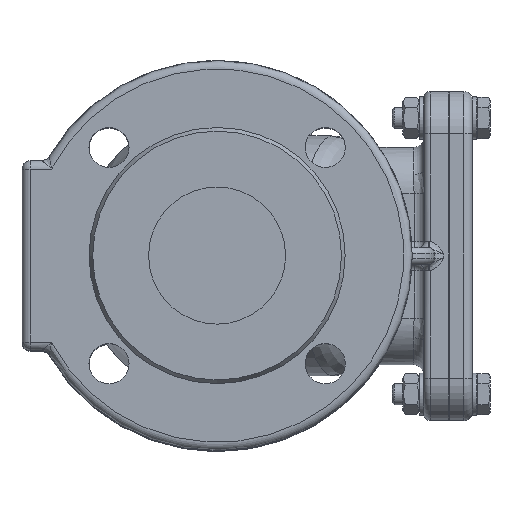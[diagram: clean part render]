
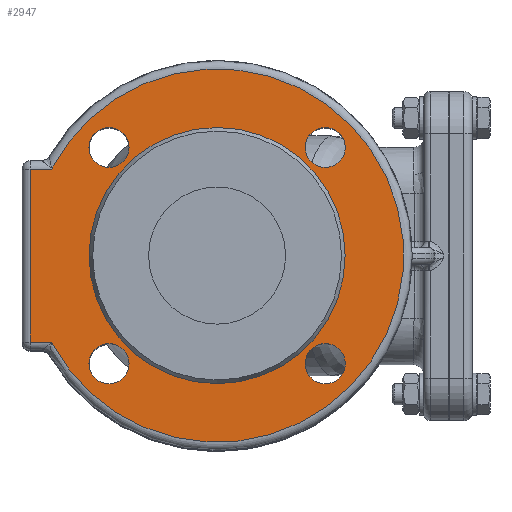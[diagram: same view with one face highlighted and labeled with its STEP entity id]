
A CAD part, top view. The second image highlights one B-rep face of the part: STEP entity #2947.
In plain terms, the highlighted planar face has unit normal (0, 0, 1).
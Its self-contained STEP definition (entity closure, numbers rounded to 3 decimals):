
#2947=ADVANCED_FACE('',(#9146,#9148,#9150,#9152,#9154,#9156),#9158,.T.);
#9146=FACE_BOUND('',#9147,.T.);
#9147=EDGE_LOOP('',(#13368,#13369,#13370,#13371));
#9148=FACE_BOUND('',#9149,.T.);
#9149=EDGE_LOOP('',(#13372));
#9150=FACE_BOUND('',#9151,.T.);
#9151=EDGE_LOOP('',(#13373));
#9152=FACE_BOUND('',#9153,.T.);
#9153=EDGE_LOOP('',(#13374));
#9154=FACE_BOUND('',#9155,.T.);
#9155=EDGE_LOOP('',(#13375));
#9156=FACE_BOUND('',#9157,.T.);
#9157=EDGE_LOOP('',(#13376));
#9158=PLANE('',#9159);
#9159=AXIS2_PLACEMENT_3D('',#9160,#9161,#9162);
#9160=CARTESIAN_POINT('',(0.,0.,237.));
#9161=DIRECTION('',(0.,0.,1.));
#9162=DIRECTION('',(-1.,0.,0.));
#13368=ORIENTED_EDGE('',*,*,#15998,.F.);
#13369=ORIENTED_EDGE('',*,*,#15999,.T.);
#13370=ORIENTED_EDGE('',*,*,#16000,.T.);
#13371=ORIENTED_EDGE('',*,*,#16001,.T.);
#13372=ORIENTED_EDGE('',*,*,#16002,.F.);
#13373=ORIENTED_EDGE('',*,*,#15938,.T.);
#13374=ORIENTED_EDGE('',*,*,#15939,.T.);
#13375=ORIENTED_EDGE('',*,*,#15940,.F.);
#13376=ORIENTED_EDGE('',*,*,#15941,.F.);
#15938=EDGE_CURVE('',#18124,#18124,#18125,.T.);
#15939=EDGE_CURVE('',#18126,#18126,#18127,.T.);
#15940=EDGE_CURVE('',#18128,#18128,#18129,.T.);
#15941=EDGE_CURVE('',#18130,#18130,#18131,.T.);
#15998=EDGE_CURVE('',#18213,#18214,#18215,.T.);
#15999=EDGE_CURVE('',#18213,#18216,#18217,.T.);
#16000=EDGE_CURVE('',#18216,#18218,#18219,.T.);
#16001=EDGE_CURVE('',#18218,#18214,#18220,.T.);
#16002=EDGE_CURVE('',#18221,#18221,#18222,.T.);
#18124=VERTEX_POINT('',#37775);
#18125=CIRCLE('',#37776,9.5);
#18126=VERTEX_POINT('',#37780);
#18127=CIRCLE('',#37781,9.5);
#18128=VERTEX_POINT('',#37785);
#18129=CIRCLE('',#37786,9.5);
#18130=VERTEX_POINT('',#37790);
#18131=CIRCLE('',#37791,9.5);
#18213=VERTEX_POINT('',#38242);
#18214=VERTEX_POINT('',#38243);
#18215=LINE('',#38244,#38245);
#18216=VERTEX_POINT('',#38247);
#18217=LINE('',#38248,#38249);
#18218=VERTEX_POINT('',#38251);
#18219=LINE('',#38252,#38253);
#18220=CIRCLE('',#38255,88.5);
#18221=VERTEX_POINT('',#38259);
#18222=CIRCLE('',#38260,60.732);
#37775=CARTESIAN_POINT('',(51.265,60.765,237.));
#37776=AXIS2_PLACEMENT_3D('',#37777,#37778,#37779);
#37777=CARTESIAN_POINT('',(51.265,51.265,237.));
#37778=DIRECTION('',(0.,0.,-1.));
#37779=DIRECTION('',(-1.,0.,0.));
#37780=CARTESIAN_POINT('',(-51.265,60.765,237.));
#37781=AXIS2_PLACEMENT_3D('',#37782,#37783,#37784);
#37782=CARTESIAN_POINT('',(-51.265,51.265,237.));
#37783=DIRECTION('',(0.,0.,-1.));
#37784=DIRECTION('',(-1.,0.,0.));
#37785=CARTESIAN_POINT('',(51.265,-60.765,237.));
#37786=AXIS2_PLACEMENT_3D('',#37787,#37788,#37789);
#37787=CARTESIAN_POINT('',(51.265,-51.265,237.));
#37788=DIRECTION('',(0.,0.,1.));
#37789=DIRECTION('',(-1.,0.,0.));
#37790=CARTESIAN_POINT('',(-51.265,-60.765,237.));
#37791=AXIS2_PLACEMENT_3D('',#37792,#37793,#37794);
#37792=CARTESIAN_POINT('',(-51.265,-51.265,237.));
#37793=DIRECTION('',(0.,0.,1.));
#37794=DIRECTION('',(-1.,0.,0.));
#38242=CARTESIAN_POINT('',(-88.5,41.,237.));
#38243=CARTESIAN_POINT('',(-78.43,41.,237.));
#38244=CARTESIAN_POINT('',(-88.5,41.,237.));
#38245=VECTOR('',#38246,1.);
#38246=DIRECTION('',(1.,0.,0.));
#38247=CARTESIAN_POINT('',(-88.5,-41.,237.));
#38248=CARTESIAN_POINT('',(-88.5,41.,237.));
#38249=VECTOR('',#38250,1.);
#38250=DIRECTION('',(0.,-1.,0.));
#38251=CARTESIAN_POINT('',(-78.43,-41.,237.));
#38252=CARTESIAN_POINT('',(-88.5,-41.,237.));
#38253=VECTOR('',#38254,1.);
#38254=DIRECTION('',(1.,0.,0.));
#38255=AXIS2_PLACEMENT_3D('',#38256,#38257,#38258);
#38256=CARTESIAN_POINT('',(0.,0.,237.));
#38257=DIRECTION('',(0.,0.,1.));
#38258=DIRECTION('',(-0.886,-0.463,0.));
#38259=CARTESIAN_POINT('',(60.732,0.,237.));
#38260=AXIS2_PLACEMENT_3D('',#38261,#38262,#38263);
#38261=CARTESIAN_POINT('',(0.,0.,237.));
#38262=DIRECTION('',(0.,0.,1.));
#38263=DIRECTION('',(-1.,0.,0.));
